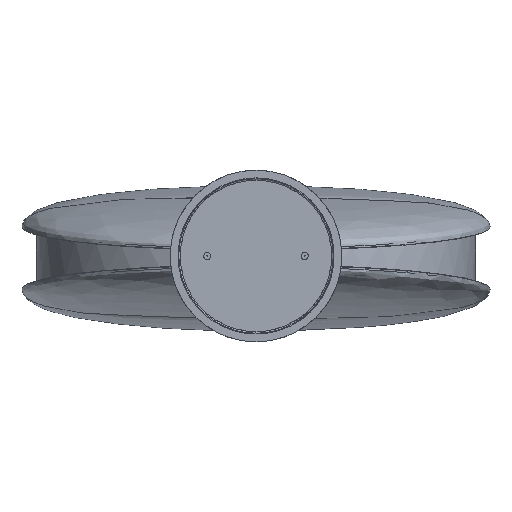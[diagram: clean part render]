
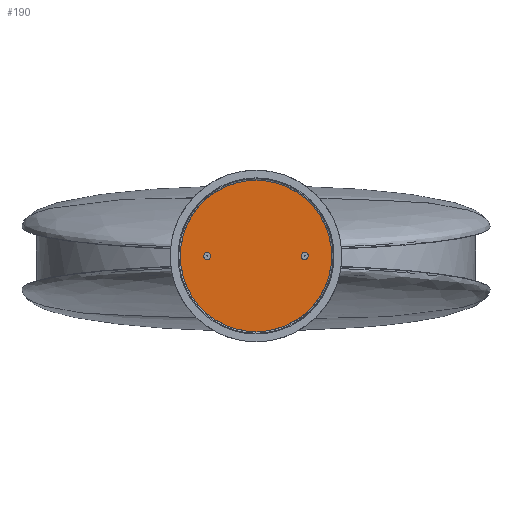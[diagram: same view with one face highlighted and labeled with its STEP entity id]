
A CAD part, top view. The second image highlights one B-rep face of the part: STEP entity #190.
In plain terms, the highlighted planar face has unit normal (0, 0, 1).
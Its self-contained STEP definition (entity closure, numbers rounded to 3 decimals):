
#56=B_SPLINE_CURVE_WITH_KNOTS('',3,(#3852,#3853,#3854,#3855,#3856,#3857,
#3858,#3859,#3860,#3861,#3862,#3863,#3864,#3865,#3866,#3867,#3868,#3869,
#3870,#3871,#3872,#3873,#3874,#3875,#3876,#3877,#3878,#3879,#3880,#3881,
#3882,#3883,#3884,#3885,#3886,#3887,#3888),.UNSPECIFIED.,.F.,.F.,(4,1,1,
1,1,1,1,1,1,1,1,1,1,1,1,1,3,1,1,1,1,1,1,1,1,1,1,1,1,1,1,1,4),(0.,9.534,
19.068,28.603,38.137,47.671,57.205,
66.739,76.273,85.808,95.342,104.876,
114.41,123.944,133.478,143.013,152.547,
162.081,171.615,181.149,190.684,200.218,
209.752,219.286,228.82,238.354,247.889,
257.423,266.957,276.491,286.025,295.559,
305.094),.UNSPECIFIED.);
#57=B_SPLINE_CURVE_WITH_KNOTS('',3,(#3889,#3890,#3891,#3892,#3893,#3894,
#3895,#3896,#3897,#3898,#3899,#3900,#3901,#3902,#3903,#3904,#3905,#3906,
#3907,#3908,#3909,#3910,#3911,#3912,#3913,#3914,#3915,#3916,#3917,#3918,
#3919,#3920,#3921,#3922,#3923,#3924,#3925),.UNSPECIFIED.,.F.,.F.,(4,1,1,
1,1,1,1,1,1,1,1,1,1,1,1,1,3,1,1,1,1,1,1,1,1,1,1,1,1,1,1,1,4),(0.,9.534,
19.068,28.603,38.137,47.671,57.205,
66.739,76.273,85.808,95.342,104.876,
114.41,123.944,133.478,143.013,152.547,
162.081,171.615,181.149,190.684,200.218,
209.752,219.286,228.82,238.354,247.889,
257.423,266.957,276.491,286.025,295.559,
305.094),.UNSPECIFIED.);
#190=ADVANCED_FACE('',(#280),#1151,.T.);
#280=FACE_OUTER_BOUND('',#376,.T.);
#376=EDGE_LOOP('',(#680,#681));
#680=ORIENTED_EDGE('',*,*,#874,.T.);
#681=ORIENTED_EDGE('',*,*,#875,.T.);
#874=EDGE_CURVE('',#1112,#1113,#56,.T.);
#875=EDGE_CURVE('',#1113,#1112,#57,.T.);
#1112=VERTEX_POINT('',#3760);
#1113=VERTEX_POINT('',#3761);
#1151=PLANE('',#1324);
#1324=AXIS2_PLACEMENT_3D('',#3716,#1393,$);
#1393=DIRECTION('',(0.,0.,1.));
#3716=CARTESIAN_POINT('',(-116.412,-115.788,1122.466));
#3760=CARTESIAN_POINT('',(0.,-96.376,1122.466));
#3761=CARTESIAN_POINT('',(0.,97.624,1122.466));
#3852=CARTESIAN_POINT('',(0.,-96.376,1122.466));
#3853=CARTESIAN_POINT('',(2.858,-96.376,1122.466));
#3854=CARTESIAN_POINT('',(8.679,-96.123,1122.466));
#3855=CARTESIAN_POINT('',(17.632,-94.907,1122.466));
#3856=CARTESIAN_POINT('',(26.694,-92.789,1122.466));
#3857=CARTESIAN_POINT('',(35.733,-89.726,1122.466));
#3858=CARTESIAN_POINT('',(44.605,-85.698,1122.466));
#3859=CARTESIAN_POINT('',(53.158,-80.716,1122.466));
#3860=CARTESIAN_POINT('',(61.241,-74.822,1122.466));
#3861=CARTESIAN_POINT('',(68.712,-68.088,1122.466));
#3862=CARTESIAN_POINT('',(75.446,-60.617,1122.466));
#3863=CARTESIAN_POINT('',(81.341,-52.533,1122.466));
#3864=CARTESIAN_POINT('',(86.323,-43.98,1122.466));
#3865=CARTESIAN_POINT('',(90.35,-35.109,1122.466));
#3866=CARTESIAN_POINT('',(93.413,-26.07,1122.466));
#3867=CARTESIAN_POINT('',(95.531,-17.008,1122.466));
#3868=CARTESIAN_POINT('',(96.747,-8.055,1122.466));
#3869=CARTESIAN_POINT('',(97.,-2.234,1122.466));
#3870=CARTESIAN_POINT('',(97.,0.624,1122.466));
#3871=CARTESIAN_POINT('',(97.,3.482,1122.466));
#3872=CARTESIAN_POINT('',(96.747,9.303,1122.466));
#3873=CARTESIAN_POINT('',(95.531,18.257,1122.466));
#3874=CARTESIAN_POINT('',(93.413,27.318,1122.466));
#3875=CARTESIAN_POINT('',(90.35,36.357,1122.466));
#3876=CARTESIAN_POINT('',(86.323,45.229,1122.466));
#3877=CARTESIAN_POINT('',(81.341,53.782,1122.466));
#3878=CARTESIAN_POINT('',(75.446,61.865,1122.466));
#3879=CARTESIAN_POINT('',(68.712,69.337,1122.466));
#3880=CARTESIAN_POINT('',(61.241,76.07,1122.466));
#3881=CARTESIAN_POINT('',(53.158,81.965,1122.466));
#3882=CARTESIAN_POINT('',(44.605,86.947,1122.466));
#3883=CARTESIAN_POINT('',(35.733,90.975,1122.466));
#3884=CARTESIAN_POINT('',(26.694,94.038,1122.466));
#3885=CARTESIAN_POINT('',(17.632,96.155,1122.466));
#3886=CARTESIAN_POINT('',(8.679,97.371,1122.466));
#3887=CARTESIAN_POINT('',(2.858,97.624,1122.466));
#3888=CARTESIAN_POINT('',(0.,97.624,1122.466));
#3889=CARTESIAN_POINT('',(0.,97.624,1122.466));
#3890=CARTESIAN_POINT('',(-2.858,97.624,1122.466));
#3891=CARTESIAN_POINT('',(-8.679,97.371,1122.466));
#3892=CARTESIAN_POINT('',(-17.632,96.155,1122.466));
#3893=CARTESIAN_POINT('',(-26.694,94.038,1122.466));
#3894=CARTESIAN_POINT('',(-35.733,90.975,1122.466));
#3895=CARTESIAN_POINT('',(-44.605,86.947,1122.466));
#3896=CARTESIAN_POINT('',(-53.158,81.965,1122.466));
#3897=CARTESIAN_POINT('',(-61.241,76.07,1122.466));
#3898=CARTESIAN_POINT('',(-68.712,69.337,1122.466));
#3899=CARTESIAN_POINT('',(-75.446,61.865,1122.466));
#3900=CARTESIAN_POINT('',(-81.341,53.782,1122.466));
#3901=CARTESIAN_POINT('',(-86.323,45.229,1122.466));
#3902=CARTESIAN_POINT('',(-90.35,36.357,1122.466));
#3903=CARTESIAN_POINT('',(-93.413,27.318,1122.466));
#3904=CARTESIAN_POINT('',(-95.531,18.257,1122.466));
#3905=CARTESIAN_POINT('',(-96.747,9.303,1122.466));
#3906=CARTESIAN_POINT('',(-97.,3.482,1122.466));
#3907=CARTESIAN_POINT('',(-97.,0.624,1122.466));
#3908=CARTESIAN_POINT('',(-97.,-2.234,1122.466));
#3909=CARTESIAN_POINT('',(-96.747,-8.055,1122.466));
#3910=CARTESIAN_POINT('',(-95.531,-17.008,1122.466));
#3911=CARTESIAN_POINT('',(-93.413,-26.07,1122.466));
#3912=CARTESIAN_POINT('',(-90.35,-35.109,1122.466));
#3913=CARTESIAN_POINT('',(-86.323,-43.98,1122.466));
#3914=CARTESIAN_POINT('',(-81.341,-52.533,1122.466));
#3915=CARTESIAN_POINT('',(-75.446,-60.617,1122.466));
#3916=CARTESIAN_POINT('',(-68.712,-68.088,1122.466));
#3917=CARTESIAN_POINT('',(-61.241,-74.822,1122.466));
#3918=CARTESIAN_POINT('',(-53.158,-80.716,1122.466));
#3919=CARTESIAN_POINT('',(-44.605,-85.698,1122.466));
#3920=CARTESIAN_POINT('',(-35.733,-89.726,1122.466));
#3921=CARTESIAN_POINT('',(-26.694,-92.789,1122.466));
#3922=CARTESIAN_POINT('',(-17.632,-94.907,1122.466));
#3923=CARTESIAN_POINT('',(-8.679,-96.123,1122.466));
#3924=CARTESIAN_POINT('',(-2.858,-96.376,1122.466));
#3925=CARTESIAN_POINT('',(0.,-96.376,1122.466));
